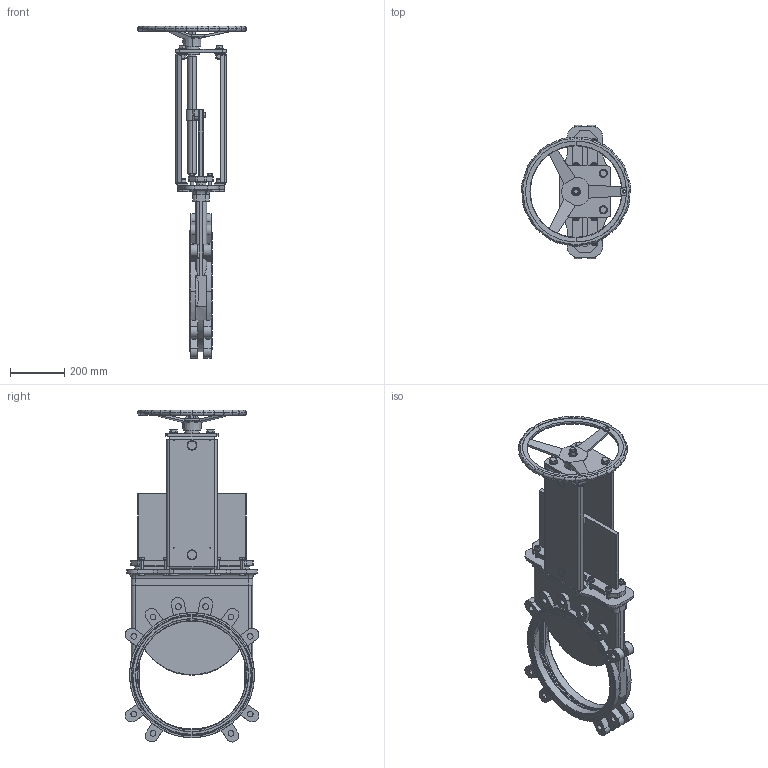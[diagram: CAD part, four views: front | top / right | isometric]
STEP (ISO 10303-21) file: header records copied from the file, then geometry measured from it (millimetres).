
FILE_DESCRIPTION(('STEP AP203'),'1');
FILE_NAME('G:/KONSTRUK/3-d block för CD/WB VALVE/HAND WHEEL/400/WB-DN400-PN10-HW.stp','2012-12-03T08:51:16',(' '),(' '),'Spatial InterOp 3D',' ',' ');
FILE_SCHEMA(('CONFIG_CONTROL_DESIGN'));
Length unit declared in the file: millimetre
Products named in the file (7): 1; 2; 3; 4; 5; 6; 7
Bounding box: 402 x 491.83 x 1221.97 mm (x, y, z)
Volume: 14776768.9 mm3; surface area: 2454165.1 mm2
Topology: 7 solids, 24 shells, 1657 faces, 4094 edges, 2596 vertices
Faces by surface type: plane 702, cylinder 453, cone 341, torus 151, bspline 10
Entity records: 54783 total; most frequent: CARTESIAN_POINT 14537, DIRECTION 8729, ORIENTED_EDGE 8186, EDGE_CURVE 4093, AXIS2_PLACEMENT_3D 3510, VERTEX_POINT 2596, EDGE_LOOP 1835, CIRCLE 1815
